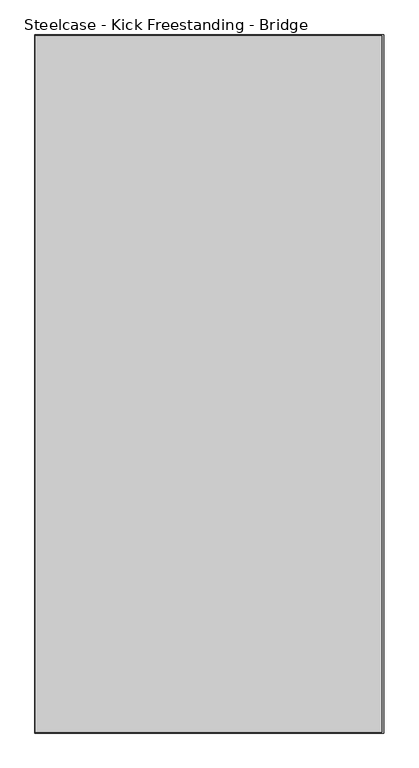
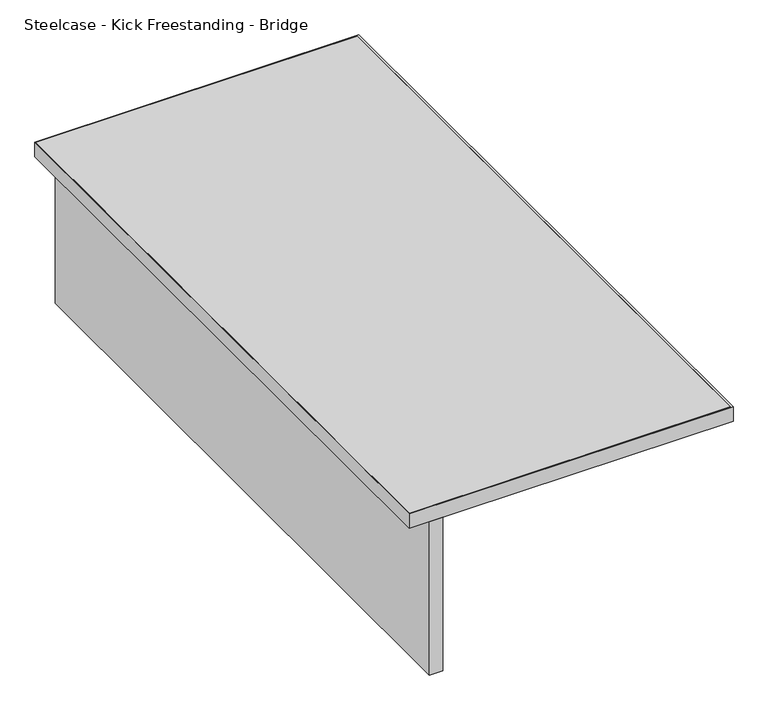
"""IFC4 building model written with IfcOpenShell, lengths in millimetres: furniture geometry, Steelcase - Kick Freestanding - Bridge : 24D x 48W - Half Panel."""

from ifc_helpers import new_model, si_unit, frame, origin, place, context, project, spatial, polyline, outline, extrude, source, transform, mapped, element, save


def steelcase_kick_freestanding_bridge_c0ca26bf(model_context):
    return source(origin(), model_context, "Body", "SweptSolid", [
        extrude(outline(polyline([(2201.9594425, -1766.0145152), (2201.9594425, -546.8145152), (2227.3594425, -546.8145152), (2227.3594425, -1766.0145152), (2201.9594425, -1766.0145152)])), frame((0.0, 0.0, 377.444), z_axis=(0.0, 0.0, 1.0), x_axis=(1.0, 0.0, 0.0)), (0.0, 0.0, 1.0), 304.8),
        extrude(outline(polyline([(2769.2176592, -548.0845152), (2769.2176592, -1764.7445152), (2164.8500425, -1764.7445152), (2164.8500425, -548.0845152), (2769.2176592, -548.0845152)])), frame((0.0, 0.0, 682.244), z_axis=(0.0, 0.0, 1.0), x_axis=(1.0, 0.0, 0.0)), (0.0, 0.0, 1.0), 28.956),
        extrude(outline(polyline([(2773.4594425, -546.8145152), (2773.4594425, -1766.0145152), (2163.8594425, -1766.0145152), (2163.8594425, -546.8145152), (2773.4594425, -546.8145152)]), holes=[polyline([(2769.2176592, -548.0845152), (2164.8500425, -548.0845152), (2164.8500425, -1764.7445152), (2769.2176592, -1764.7445152), (2769.2176592, -548.0845152)])]), frame((0.0, 0.0, 682.244), z_axis=(0.0, 0.0, 1.0), x_axis=(1.0, 0.0, 0.0)), (0.0, 0.0, 1.0), 28.956),
    ])


if __name__ == "__main__":
    model = new_model("IFC4")
    model_context = context("Model", 3, world=origin())
    ifc_project = project(units=[si_unit("LENGTHUNIT", "METRE", prefix="MILLI")], contexts=[model_context])
    site = spatial("IfcSite", under=ifc_project)
    building = spatial("IfcBuilding", under=site)
    placement = place(None, origin())
    steelcase_kick_freestanding_bridge_shape = steelcase_kick_freestanding_bridge_c0ca26bf(model_context)
    element("IfcFurniture", 1, ObjectType="Steelcase - Kick Freestanding - Bridge : 24D x 48W - Half Panel", at=placement, inside=building, context=model_context, shape_type="MappedRepresentation", body=[
        mapped(steelcase_kick_freestanding_bridge_shape, transform((0.0, 0.0, 0.0), x_axis=(1.0, 0.0, 0.0), y_axis=(0.0, 1.0, 0.0), z_axis=(0.0, 0.0, 1.0))),
    ])
    save(model, "model.ifc")
